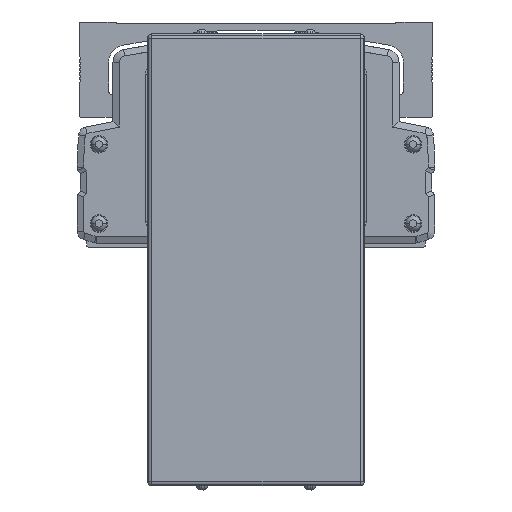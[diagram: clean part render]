
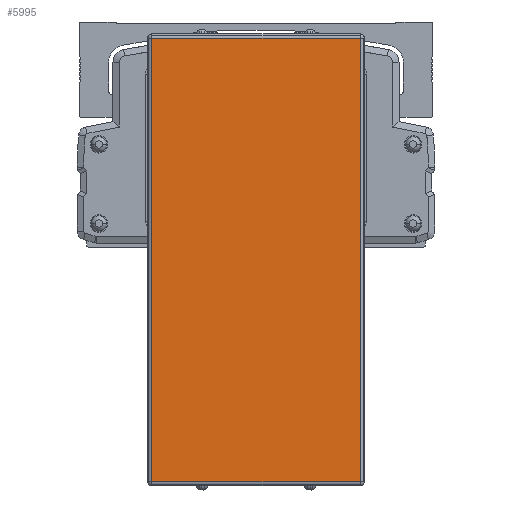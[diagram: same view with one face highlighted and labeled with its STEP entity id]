
A CAD part, front view. The second image highlights one B-rep face of the part: STEP entity #5995.
In plain terms, the highlighted planar face has unit normal (0, -1, 0).
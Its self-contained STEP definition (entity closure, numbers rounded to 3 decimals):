
#5995=ADVANCED_FACE('',(#12212),#12213,.T.);
#12212=FACE_OUTER_BOUND('',#20782,.T.);
#12213=PLANE('',#20783);
#20782=EDGE_LOOP('',(#38544,#38545,#38546,#38547));
#20783=AXIS2_PLACEMENT_3D('',#38548,#38549,#38550);
#38544=ORIENTED_EDGE('',*,*,#41528,.F.);
#38545=ORIENTED_EDGE('',*,*,#47133,.F.);
#38546=ORIENTED_EDGE('',*,*,#42634,.F.);
#38547=ORIENTED_EDGE('',*,*,#47139,.F.);
#38548=CARTESIAN_POINT('',(-600.,227.222,-57.8));
#38549=DIRECTION('',(0.,-1.0,0.));
#38550=DIRECTION('',(0.,0.,-1.0));
#41528=EDGE_CURVE('',#49858,#48068,#49860,.T.);
#42634=EDGE_CURVE('',#48997,#51702,#51703,.T.);
#47133=EDGE_CURVE('',#51702,#49858,#57963,.T.);
#47139=EDGE_CURVE('',#48068,#48997,#57969,.T.);
#48068=VERTEX_POINT('',#59080);
#48997=VERTEX_POINT('',#60442);
#49858=VERTEX_POINT('',#61747);
#49860=LINE('',#61749,#61750);
#51702=VERTEX_POINT('',#64448);
#51703=LINE('',#64449,#64450);
#57963=LINE('',#73811,#73812);
#57969=LINE('',#73819,#73820);
#59080=CARTESIAN_POINT('',(-552.,227.222,44.5));
#60442=CARTESIAN_POINT('',(-552.,227.222,-160.1));
#61747=CARTESIAN_POINT('',(-648.,227.222,44.5));
#61749=CARTESIAN_POINT('',(-600.,227.222,44.5));
#61750=VECTOR('',#75951,10.0);
#64448=CARTESIAN_POINT('',(-648.,227.222,-160.1));
#64449=CARTESIAN_POINT('',(-600.,227.222,-160.1));
#64450=VECTOR('',#77388,10.0);
#73811=CARTESIAN_POINT('',(-648.,227.222,-57.8));
#73812=VECTOR('',#82497,10.0);
#73819=CARTESIAN_POINT('',(-552.,227.222,-57.8));
#73820=VECTOR('',#82502,10.0);
#75951=DIRECTION('',(1.0,0.,0.));
#77388=DIRECTION('',(-1.0,0.,0.));
#82497=DIRECTION('',(0.,0.,1.0));
#82502=DIRECTION('',(0.,0.,-1.0));
